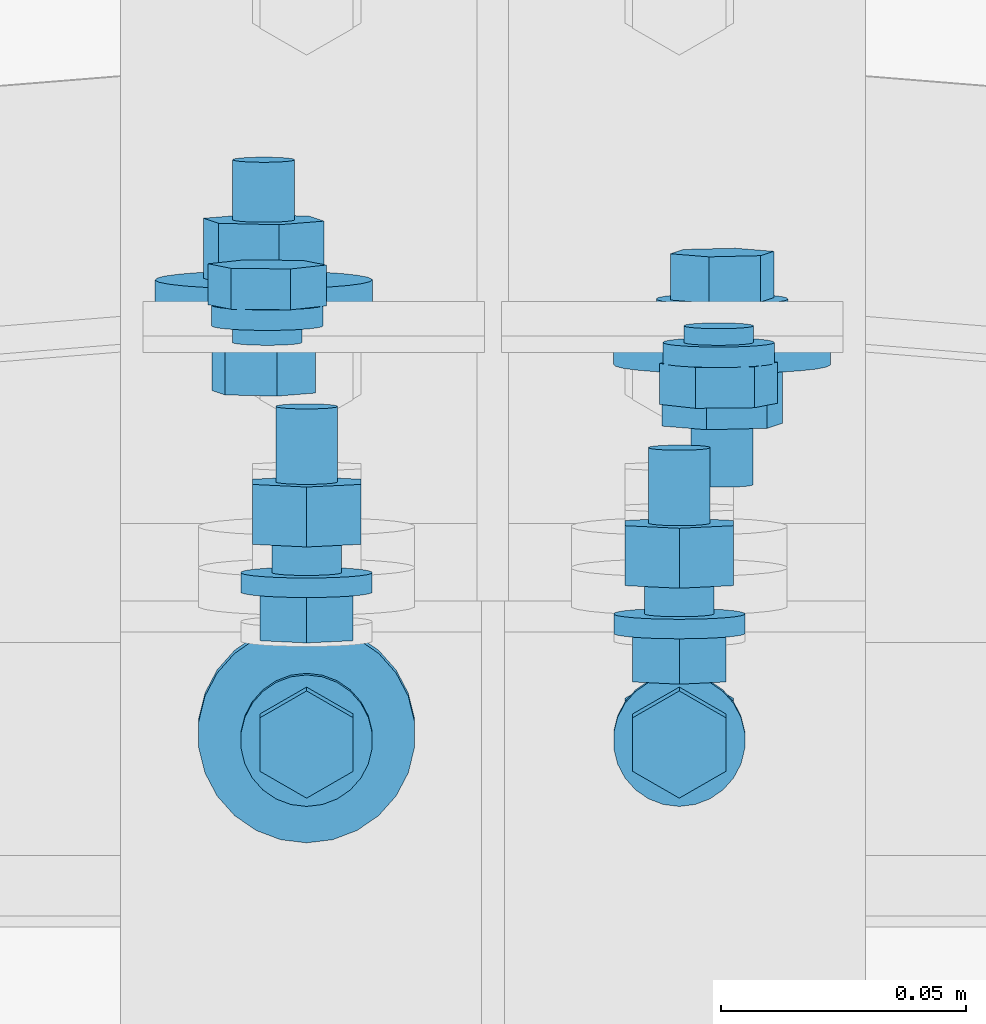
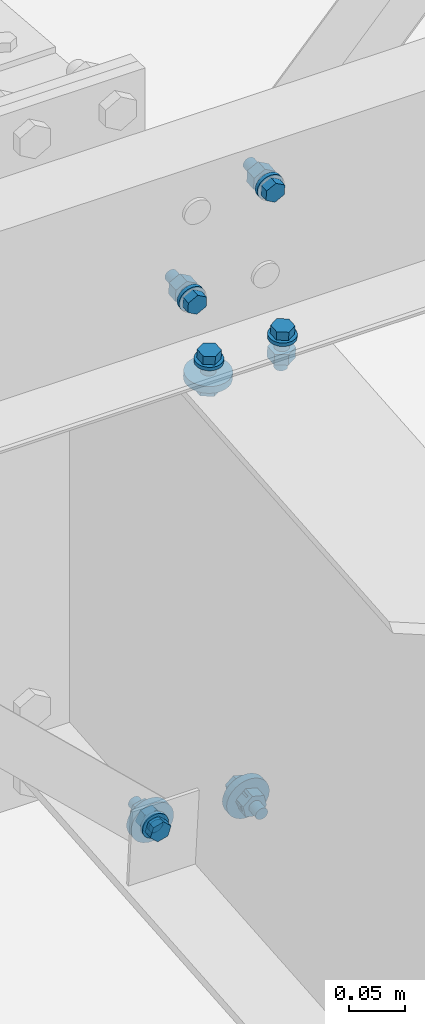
# One storey, part 140 of 185: 8 mechanical fasteners, 5 elements without a shape of their own.
"""IFC2X3 building model written with IfcOpenShell, lengths in millimetres."""

from ifc_helpers import new_model, si_unit, frame, origin_with_axes, origin_2d_with_axis, place, context, subcontext, project, spatial, polyline, circle, outline, extrude, source, transform, mapped, material, type_object, element, aggregate, save


model = new_model("IFC2X3")

# Units and contexts
model_context = context("Model", 3, precision=1e-05, world=origin_with_axes())
body_context = subcontext(model_context, "Body", "Model", "MODEL_VIEW")
ifc_project = project(units=[si_unit("LENGTHUNIT", "METRE", prefix="MILLI"), si_unit("AREAUNIT", "SQUARE_METRE"), si_unit("VOLUMEUNIT", "CUBIC_METRE"), si_unit("MASSUNIT", "GRAM", prefix="KILO"), si_unit("TIMEUNIT", "SECOND"), si_unit("PLANEANGLEUNIT", "RADIAN"), si_unit("SOLIDANGLEUNIT", "STERADIAN"), si_unit("THERMODYNAMICTEMPERATUREUNIT", "DEGREE_CELSIUS"), si_unit("LUMINOUSINTENSITYUNIT", "LUMEN")], contexts=[model_context])

# Site, building, storey
site_placement = place(None, origin_with_axes())
site = spatial("IfcSite", under=ifc_project, at=site_placement, Name="Undefined", CompositionType="ELEMENT")
building_placement = place(site_placement, origin_with_axes())
building = spatial("IfcBuilding", under=site, at=building_placement, Name="Undefined", CompositionType="ELEMENT")
storey_placement = place(building_placement, origin_with_axes())
storey = spatial("IfcBuildingStorey", under=building, at=storey_placement, Name="Undefined", CompositionType="ELEMENT", Elevation=0.0)

# Assembly, mechanical fastener
assembly_1_placement = place(storey_placement, origin_with_axes())
assembly_1 = element("IfcElementAssembly", 1, at=assembly_1_placement, inside=storey, Name="Steel Assembly", AssemblyPlace="NOTDEFINED", PredefinedType="RIGID_FRAME")
ifc_material_1 = material(Name="Undefined")
discrete_accessory_type = type_object("IfcDiscreteAccessoryType", Name="Bolt assembly")
shared_shape_1 = source(origin_with_axes(), body_context, "Body", "SweptSolid", [
    extrude(circle(Radius=7.14374971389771, at=origin_2d_with_axis()), frame((0.0, -1.59000001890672, 0.0), z_axis=(0.0, 1.0, 0.0), x_axis=(1.0, 0.0, 0.0)), (0.0, 0.0, 1.0), 1.7),
    extrude(outline(polyline([(10.9985221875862, 0.0), (5.4992610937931, 9.52499961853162), (-5.4992610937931, 9.52499961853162), (-10.9985221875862, 0.0), (-5.4992610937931, -9.52499961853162), (5.4992610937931, -9.52499961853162), (10.9985221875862, 0.0)])), frame((0.0, -15.0837496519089, 0.0), z_axis=(0.0, 1.0, 0.0), x_axis=(1.0, 0.0, 0.0)), (0.0, 0.0, 1.0), 9.5),
    extrude(circle(Radius=6.34999990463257, at=origin_2d_with_axis()), frame((0.0, -5.5587500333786, 0.0), z_axis=(0.0, 1.0, 0.0), x_axis=(1.0, 0.0, 0.0)), (0.0, 0.0, 1.0), 38.1),
    extrude(circle(Radius=13.4937496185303, at=origin_2d_with_axis()), frame((0.0, -5.5587500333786, 0.0), z_axis=(0.0, 1.0, 0.0), x_axis=(1.0, 0.0, 0.0)), (0.0, 0.0, 1.0), 4.0),
    extrude(circle(Radius=22.2250003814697, at=origin_2d_with_axis()), frame((0.0, 0.0, 0.0), z_axis=(0.0, 1.0, 0.0), x_axis=(1.0, 0.0, 0.0)), (0.0, 0.0, 1.0), 7.9),
    extrude(outline(polyline([(12.8316099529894, 0.0), (6.4158049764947, 11.1125001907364), (-6.4158049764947, 11.1125001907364), (-12.8316099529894, 0.0), (-6.4158049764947, -11.1125001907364), (6.4158049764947, -11.1125001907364), (12.8316099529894, 0.0)])), frame((0.0, 7.93750000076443, 0.0), z_axis=(0.0, 1.0, 0.0), x_axis=(1.0, 0.0, 0.0)), (0.0, 0.0, 1.0), 12.3),
])
mechanical_fastener_1_placement = place(assembly_1_placement, frame((22525.8744956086, 15761.3452081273, 6647.08460517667), z_axis=(0.697745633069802, 0.0594892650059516, -0.713871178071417), x_axis=(0.716345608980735, -0.0579446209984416, 0.695335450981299)))
mechanical_fastener_1 = element("IfcMechanicalFastener", 2, at=mechanical_fastener_1_placement, type_object=discrete_accessory_type, material=ifc_material_1, Name="Bolt assembly", NominalDiameter=12.6999998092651, NominalLength=38.0999984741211, context=body_context, shape_type="MappedRepresentation", body=[
    mapped(shared_shape_1, transform((0.0, 0.0, 0.0))),
])
aggregate(assembly_1, [mechanical_fastener_1])

assembly_2_placement = place(storey_placement, origin_with_axes())
assembly_2 = element("IfcElementAssembly", 3, at=assembly_2_placement, inside=storey, Name="Steel Assembly", AssemblyPlace="NOTDEFINED", PredefinedType="RIGID_FRAME")
shared_shape_2 = source(origin_with_axes(), body_context, "Body", "SweptSolid", [
    extrude(circle(Radius=7.14374971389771, at=origin_2d_with_axis()), frame((0.0, 0.0, 0.0), z_axis=(0.0, 1.0, 0.0), x_axis=(1.0, 0.0, 0.0)), (0.0, 0.0, 1.0), 1.7),
    extrude(outline(polyline([(10.9985221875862, 0.0), (5.4992610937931, 9.52499961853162), (-5.4992610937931, 9.52499961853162), (-10.9985221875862, 0.0), (-5.4992610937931, -9.52499961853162), (5.4992610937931, -9.52499961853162), (10.9985221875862, 0.0)])), frame((0.0, -13.4937496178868, 0.0), z_axis=(0.0, 1.0, 0.0), x_axis=(1.0, 0.0, 0.0)), (0.0, 0.0, 1.0), 9.5),
    extrude(circle(Radius=6.34999990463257, at=origin_2d_with_axis()), frame((0.0, -3.96874999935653, 0.0), z_axis=(0.0, 1.0, 0.0), x_axis=(1.0, 0.0, 0.0)), (0.0, 0.0, 1.0), 38.1),
    extrude(circle(Radius=13.4937496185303, at=origin_2d_with_axis()), frame((0.0, -3.96874999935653, 0.0), z_axis=(0.0, 1.0, 0.0), x_axis=(1.0, 0.0, 0.0)), (0.0, 0.0, 1.0), 4.0),
    extrude(circle(Radius=22.2250003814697, at=origin_2d_with_axis()), frame((0.0, 1.5900000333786, 0.0), z_axis=(0.0, 1.0, 0.0), x_axis=(1.0, 0.0, 0.0)), (0.0, 0.0, 1.0), 7.9),
    extrude(outline(polyline([(12.8316099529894, 0.0), (6.4158049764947, 11.1125001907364), (-6.4158049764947, 11.1125001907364), (-12.8316099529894, 0.0), (-6.4158049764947, -11.1125001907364), (6.4158049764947, -11.1125001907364), (12.8316099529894, 0.0)])), frame((0.0, 9.5275000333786, 0.0), z_axis=(0.0, 1.0, 0.0), x_axis=(1.0, 0.0, 0.0)), (0.0, 0.0, 1.0), 12.3),
])
mechanical_fastener_2_placement = place(assembly_2_placement, frame((22432.1255043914, 15761.3452081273, 6647.08460517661), z_axis=(-0.697745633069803, 0.0594892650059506, -0.713871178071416), x_axis=(-0.716345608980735, -0.0579446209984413, 0.6953354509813)))
mechanical_fastener_2 = element("IfcMechanicalFastener", 4, at=mechanical_fastener_2_placement, type_object=discrete_accessory_type, material=ifc_material_1, Name="Bolt assembly", NominalDiameter=12.6999998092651, NominalLength=38.0999984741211, context=body_context, shape_type="MappedRepresentation", body=[
    mapped(shared_shape_2, transform((0.0, 0.0, 0.0))),
])
aggregate(assembly_2, [mechanical_fastener_2])

# Assembly, mechanical fasteners
assembly_3_placement = place(storey_placement, origin_with_axes())
assembly_3 = element("IfcElementAssembly", 5, at=assembly_3_placement, inside=storey, Name="Steel Assembly", AssemblyPlace="NOTDEFINED", PredefinedType="RIGID_FRAME")
ifc_material_2 = material(Name="7990")
shared_shape_3 = source(origin_with_axes(), body_context, "Body", "SweptSolid", [
    extrude(circle(Radius=7.14374971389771, at=origin_2d_with_axis()), frame((0.0, -3.41600000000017, 0.0), z_axis=(0.0, 1.0, 0.0), x_axis=(1.0, 0.0, 0.0)), (0.0, 0.0, 1.0), 3.5),
    extrude(circle(Radius=11.4299998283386, at=origin_2d_with_axis()), frame((0.0, 0.0, 0.0), z_axis=(0.0, 1.0, 0.0), x_axis=(1.0, 0.0, 0.0)), (0.0, 0.0, 1.0), 4.2),
    extrude(outline(polyline([(12.171698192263, 0.0), (6.08584909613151, 10.5409998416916), (-6.08584909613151, 10.5409998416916), (-12.171698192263, 0.0), (-6.08584909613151, -10.5409998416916), (6.08584909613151, -10.5409998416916), (12.171698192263, 0.0)])), frame((0.0, 4.1909999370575, 0.0), z_axis=(0.0, 1.0, 0.0), x_axis=(1.0, 0.0, 0.0)), (0.0, 0.0, 1.0), 8.4),
])
mechanical_fastener_3_placement = place(assembly_3_placement, frame((22432.84185, 15761.4031527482, 6646.38926972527), z_axis=(0.921635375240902, 0.0322263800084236, -0.386716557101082), x_axis=(-0.388056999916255, 0.0765376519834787, -0.9184518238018)))
mechanical_fastener_3 = element("IfcMechanicalFastener", 6, at=mechanical_fastener_3_placement, type_object=discrete_accessory_type, material=ifc_material_2, Name="Bolt assembly", NominalDiameter=12.6999998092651, NominalLength=38.0999984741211, context=body_context, shape_type="MappedRepresentation", body=[
    mapped(shared_shape_3, transform((0.0, 0.0, 0.0))),
])
shared_shape_4 = source(origin_with_axes(), body_context, "Body", "SweptSolid", [
    extrude(circle(Radius=7.14374971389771, at=origin_2d_with_axis()), frame((0.0, 0.0, 0.0), z_axis=(0.0, 1.0, 0.0), x_axis=(1.0, 0.0, 0.0)), (0.0, 0.0, 1.0), 3.5),
    extrude(circle(Radius=11.4299998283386, at=origin_2d_with_axis()), frame((0.0, 3.41600000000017, 0.0), z_axis=(0.0, 1.0, 0.0), x_axis=(1.0, 0.0, 0.0)), (0.0, 0.0, 1.0), 4.2),
    extrude(outline(polyline([(12.171698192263, 0.0), (6.08584909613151, 10.5409998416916), (-6.08584909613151, 10.5409998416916), (-12.171698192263, 0.0), (-6.08584909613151, -10.5409998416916), (6.08584909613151, -10.5409998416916), (12.171698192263, 0.0)])), frame((0.0, 7.60699993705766, 0.0), z_axis=(0.0, 1.0, 0.0), x_axis=(1.0, 0.0, 0.0)), (0.0, 0.0, 1.0), 8.4),
])
mechanical_fastener_4_placement = place(assembly_3_placement, frame((22525.15815, 15761.4031527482, 6646.38926972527), z_axis=(-0.921635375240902, 0.0322263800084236, -0.386716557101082), x_axis=(0.388056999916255, 0.0765376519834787, -0.9184518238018)))
mechanical_fastener_4 = element("IfcMechanicalFastener", 7, at=mechanical_fastener_4_placement, type_object=discrete_accessory_type, material=ifc_material_2, Name="Bolt assembly", NominalDiameter=12.6999998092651, NominalLength=38.0999984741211, context=body_context, shape_type="MappedRepresentation", body=[
    mapped(shared_shape_4, transform((0.0, 0.0, 0.0))),
])
aggregate(assembly_3, [mechanical_fastener_4, mechanical_fastener_3])

assembly_4_placement = place(storey_placement, origin_with_axes())
assembly_4 = element("IfcElementAssembly", 8, at=assembly_4_placement, inside=storey, Name="Steel Assembly", AssemblyPlace="NOTDEFINED", PredefinedType="RIGID_FRAME")
shared_shape_5 = source(origin_with_axes(), body_context, "Body", "SweptSolid", [
    extrude(circle(Radius=7.14374971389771, at=origin_2d_with_axis()), frame((0.0, 0.0, 0.0), z_axis=(0.0, 1.0, 0.0), x_axis=(1.0, 0.0, 0.0)), (0.0, 0.0, 1.0), 6.5),
    extrude(outline(polyline([(10.9985221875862, 0.0), (5.4992610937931, 9.52499961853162), (-5.4992610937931, 9.52499961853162), (-10.9985221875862, 0.0), (-5.4992610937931, -9.52499961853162), (5.4992610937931, -9.52499961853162), (10.9985221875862, 0.0)])), frame((0.0, -13.4937496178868, 0.0), z_axis=(0.0, 1.0, 0.0), x_axis=(1.0, 0.0, 0.0)), (0.0, 0.0, 1.0), 9.5),
    extrude(circle(Radius=6.34999990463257, at=origin_2d_with_axis()), frame((0.0, -3.96874999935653, 0.0), z_axis=(0.0, 1.0, 0.0), x_axis=(1.0, 0.0, 0.0)), (0.0, 0.0, 1.0), 38.1),
    extrude(circle(Radius=13.4937496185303, at=origin_2d_with_axis()), frame((0.0, -3.96874999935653, 0.0), z_axis=(0.0, 1.0, 0.0), x_axis=(1.0, 0.0, 0.0)), (0.0, 0.0, 1.0), 4.0),
    extrude(outline(polyline([(12.8316099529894, 0.0), (6.4158049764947, 11.1125001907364), (-6.4158049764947, 11.1125001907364), (-12.8316099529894, 0.0), (-6.4158049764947, -11.1125001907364), (6.4158049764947, -11.1125001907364), (12.8316099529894, 0.0)])), frame((0.0, 6.35000000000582, 0.0), z_axis=(0.0, 1.0, 0.0), x_axis=(1.0, 0.0, 0.0)), (0.0, 0.0, 1.0), 12.3),
])
mechanical_fastener_5_placement = place(assembly_4_placement, frame((22440.9, 15710.9094083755, 7252.31420220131), z_axis=(1.0, 0.0, 0.0), x_axis=(0.0, 0.0830454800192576, -0.996545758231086)))
mechanical_fastener_5 = element("IfcMechanicalFastener", 9, at=mechanical_fastener_5_placement, type_object=discrete_accessory_type, material=ifc_material_1, Name="Bolt assembly", NominalDiameter=12.6999998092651, NominalLength=38.0999984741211, context=body_context, shape_type="MappedRepresentation", body=[
    mapped(shared_shape_5, transform((0.0, 0.0, 0.0))),
])
shared_shape_6 = source(origin_with_axes(), body_context, "Body", "SweptSolid", [
    extrude(circle(Radius=7.14374971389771, at=origin_2d_with_axis()), frame((0.0, 0.0, 0.0), z_axis=(0.0, 1.0, 0.0), x_axis=(1.0, 0.0, 0.0)), (0.0, 0.0, 1.0), 6.4),
    extrude(outline(polyline([(10.9985221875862, 0.0), (5.4992610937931, 9.52499961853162), (-5.4992610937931, 9.52499961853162), (-10.9985221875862, 0.0), (-5.4992610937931, -9.52499961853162), (5.4992610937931, -9.52499961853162), (10.9985221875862, 0.0)])), frame((0.0, -13.4937496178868, 0.0), z_axis=(0.0, 1.0, 0.0), x_axis=(1.0, 0.0, 0.0)), (0.0, 0.0, 1.0), 9.5),
    extrude(circle(Radius=6.34999990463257, at=origin_2d_with_axis()), frame((0.0, -3.96874999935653, 0.0), z_axis=(0.0, 1.0, 0.0), x_axis=(1.0, 0.0, 0.0)), (0.0, 0.0, 1.0), 38.1),
    extrude(circle(Radius=13.4937496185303, at=origin_2d_with_axis()), frame((0.0, -3.96874999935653, 0.0), z_axis=(0.0, 1.0, 0.0), x_axis=(1.0, 0.0, 0.0)), (0.0, 0.0, 1.0), 4.0),
    extrude(outline(polyline([(12.8316099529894, 0.0), (6.4158049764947, 11.1125001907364), (-6.4158049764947, 11.1125001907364), (-12.8316099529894, 0.0), (-6.4158049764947, -11.1125001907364), (6.4158049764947, -11.1125001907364), (12.8316099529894, 0.0)])), frame((0.0, 6.35000000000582, 0.0), z_axis=(0.0, 1.0, 0.0), x_axis=(1.0, 0.0, 0.0)), (0.0, 0.0, 1.0), 12.3),
])
mechanical_fastener_6_placement = place(assembly_4_placement, frame((22517.1, 15702.4719876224, 7353.56325123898), z_axis=(1.0, 0.0, 0.0), x_axis=(0.0, 0.0830454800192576, -0.996545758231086)))
mechanical_fastener_6 = element("IfcMechanicalFastener", 10, at=mechanical_fastener_6_placement, type_object=discrete_accessory_type, material=ifc_material_1, Name="Bolt assembly", NominalDiameter=12.6999998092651, NominalLength=38.0999984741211, context=body_context, shape_type="MappedRepresentation", body=[
    mapped(shared_shape_6, transform((0.0, 0.0, 0.0))),
])
aggregate(assembly_4, [mechanical_fastener_5, mechanical_fastener_6])

assembly_5_placement = place(storey_placement, origin_with_axes())
assembly_5 = element("IfcElementAssembly", 11, at=assembly_5_placement, inside=storey, Name="Steel Assembly", AssemblyPlace="NOTDEFINED", PredefinedType="RIGID_FRAME")
shared_shape_7 = source(origin_with_axes(), body_context, "Body", "SweptSolid", [
    extrude(circle(Radius=7.14374971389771, at=origin_2d_with_axis()), frame((0.0, -0.0238014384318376, 0.0), z_axis=(0.0, 1.0, 0.0), x_axis=(1.0, 0.0, 0.0)), (0.0, 0.0, 1.0), 8.0),
    extrude(circle(Radius=7.14374971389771, at=origin_2d_with_axis()), frame((0.0, -3.08000006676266, 0.0), z_axis=(0.0, 1.0, 0.0), x_axis=(1.0, 0.0, 0.0)), (0.0, 0.0, 1.0), 3.2),
    extrude(circle(Radius=7.14374971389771, at=origin_2d_with_axis()), frame((0.0, -3.08000006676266, 0.0), z_axis=(0.0, 1.0, 0.0), x_axis=(1.0, 0.0, 0.0)), (0.0, 0.0, 1.0), 3.2),
    extrude(outline(polyline([(10.9985221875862, 0.0), (5.4992610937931, 9.52499961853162), (-5.4992610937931, 9.52499961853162), (-10.9985221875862, 0.0), (-5.4992610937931, -9.52499961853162), (5.4992610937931, -9.52499961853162), (10.9985221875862, 0.0)])), frame((0.0, -16.6737496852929, 0.0), z_axis=(0.0, 1.0, 0.0), x_axis=(1.0, 0.0, 0.0)), (0.0, 0.0, 1.0), 9.5),
    extrude(circle(Radius=6.34999990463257, at=origin_2d_with_axis()), frame((0.0, -7.14875006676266, 0.0), z_axis=(0.0, 1.0, 0.0), x_axis=(1.0, 0.0, 0.0)), (0.0, 0.0, 1.0), 38.1),
    extrude(circle(Radius=13.4937496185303, at=origin_2d_with_axis()), frame((0.0, -7.14875006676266, 0.0), z_axis=(0.0, 1.0, 0.0), x_axis=(1.0, 0.0, 0.0)), (0.0, 0.0, 1.0), 4.0),
    extrude(circle(Radius=22.2250003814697, at=origin_2d_with_axis()), frame((0.0, 7.95019856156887, 0.0), z_axis=(0.0, 1.0, 0.0), x_axis=(1.0, 0.0, 0.0)), (0.0, 0.0, 1.0), 7.9),
    extrude(outline(polyline([(12.8316099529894, 0.0), (6.4158049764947, 11.1125001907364), (-6.4158049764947, 11.1125001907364), (-12.8316099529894, 0.0), (-6.4158049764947, -11.1125001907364), (6.4158049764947, -11.1125001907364), (12.8316099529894, 0.0)])), frame((0.0, 15.8876985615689, 0.0), z_axis=(0.0, 1.0, 0.0), x_axis=(1.0, 0.0, 0.0)), (0.0, 0.0, 1.0), 12.3),
])
mechanical_fastener_7_placement = place(assembly_5_placement, frame((22440.9, 15677.1597253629, 7198.52564490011), z_axis=(1.0, 0.0, 0.0), x_axis=(0.0, -0.996545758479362, -0.0830454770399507)))
mechanical_fastener_7 = element("IfcMechanicalFastener", 12, at=mechanical_fastener_7_placement, type_object=discrete_accessory_type, material=ifc_material_1, Name="Bolt assembly", NominalDiameter=12.6999998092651, NominalLength=38.0999984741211, context=body_context, shape_type="MappedRepresentation", body=[
    mapped(shared_shape_7, transform((0.0, 0.0, 0.0))),
])
shared_shape_8 = source(origin_with_axes(), body_context, "Body", "SweptSolid", [
    extrude(circle(Radius=7.14374971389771, at=origin_2d_with_axis()), frame((0.0, -0.0238014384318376, 0.0), z_axis=(0.0, 1.0, 0.0), x_axis=(1.0, 0.0, 0.0)), (0.0, 0.0, 1.0), 8.0),
    extrude(circle(Radius=7.14374971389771, at=origin_2d_with_axis()), frame((0.0, -3.08000006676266, 0.0), z_axis=(0.0, 1.0, 0.0), x_axis=(1.0, 0.0, 0.0)), (0.0, 0.0, 1.0), 3.2),
    extrude(circle(Radius=7.14374971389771, at=origin_2d_with_axis()), frame((0.0, -3.08000006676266, 0.0), z_axis=(0.0, 1.0, 0.0), x_axis=(1.0, 0.0, 0.0)), (0.0, 0.0, 1.0), 3.2),
    extrude(outline(polyline([(10.9985221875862, 0.0), (5.4992610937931, 9.52499961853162), (-5.4992610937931, 9.52499961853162), (-10.9985221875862, 0.0), (-5.4992610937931, -9.52499961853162), (5.4992610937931, -9.52499961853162), (10.9985221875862, 0.0)])), frame((0.0, -16.6737496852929, 0.0), z_axis=(0.0, 1.0, 0.0), x_axis=(1.0, 0.0, 0.0)), (0.0, 0.0, 1.0), 9.5),
    extrude(circle(Radius=6.34999990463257, at=origin_2d_with_axis()), frame((0.0, -7.14875006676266, 0.0), z_axis=(0.0, 1.0, 0.0), x_axis=(1.0, 0.0, 0.0)), (0.0, 0.0, 1.0), 38.1),
    extrude(circle(Radius=13.4937496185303, at=origin_2d_with_axis()), frame((0.0, -7.14875006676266, 0.0), z_axis=(0.0, 1.0, 0.0), x_axis=(1.0, 0.0, 0.0)), (0.0, 0.0, 1.0), 4.0),
    extrude(outline(polyline([(12.8316099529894, 0.0), (6.4158049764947, 11.1125001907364), (-6.4158049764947, 11.1125001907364), (-12.8316099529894, 0.0), (-6.4158049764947, -11.1125001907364), (6.4158049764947, -11.1125001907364), (12.8316099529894, 0.0)])), frame((0.0, 7.95019856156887, 0.0), z_axis=(0.0, 1.0, 0.0), x_axis=(1.0, 0.0, 0.0)), (0.0, 0.0, 1.0), 12.3),
])
mechanical_fastener_8_placement = place(assembly_5_placement, frame((22517.1, 15677.1597253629, 7198.52564490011), z_axis=(1.0, 0.0, 0.0), x_axis=(0.0, -0.996545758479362, -0.0830454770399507)))
mechanical_fastener_8 = element("IfcMechanicalFastener", 13, at=mechanical_fastener_8_placement, type_object=discrete_accessory_type, material=ifc_material_1, Name="Bolt assembly", NominalDiameter=12.6999998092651, NominalLength=38.0999984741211, context=body_context, shape_type="MappedRepresentation", body=[
    mapped(shared_shape_8, transform((0.0, 0.0, 0.0))),
])
aggregate(assembly_5, [mechanical_fastener_7, mechanical_fastener_8])

save(model, "model.ifc")
